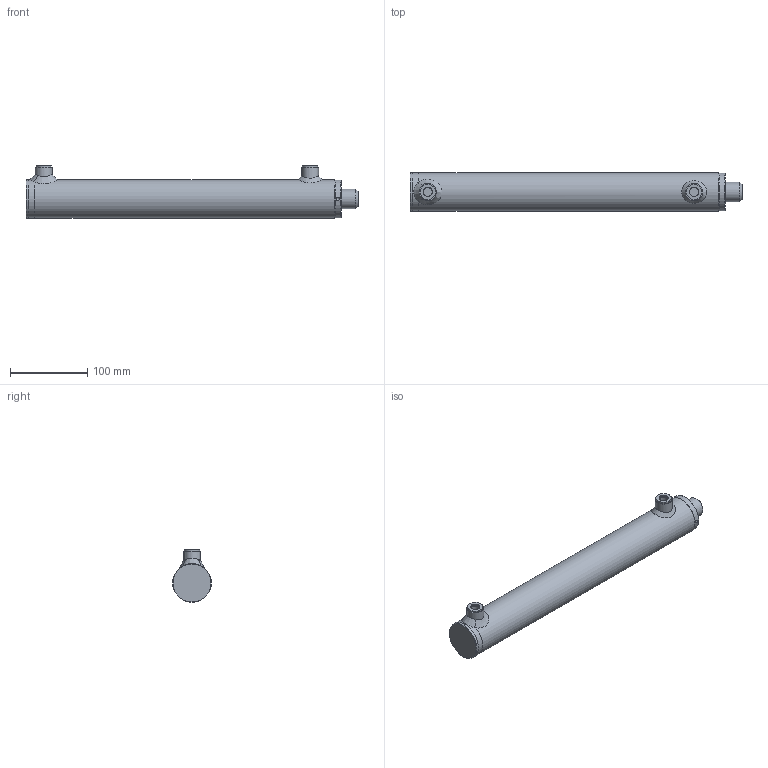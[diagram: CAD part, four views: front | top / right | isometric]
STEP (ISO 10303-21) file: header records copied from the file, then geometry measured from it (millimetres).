
FILE_DESCRIPTION( ( 'Unknown' ), '1' );
FILE_NAME( 'E:/LIBRERIA_3d/CILINDRI/HM0/HM01250300.stp', 'Unknown', ( 'Unknown' ), ( 'Unknown' ), 'PSStep 17.0.49', 'Unknown', ' ' );
FILE_SCHEMA( ( 'AUTOMOTIVE_DESIGN { 1 0 10303 214 1 1 1 1 }' ) );
Length unit declared in the file: millimetre
Products named in the file (18): CG05004025; CT00040015; STL1500300-oa4; Saldatura d'angolo 1-oa2; CBS0400000; FTM1500300-oa3; Assem1; Saldatura con preparazione 1-oa0; Saldatura d'angolo 1-oa1; CF00040050; CDA0001415; APG0400000; SBL2510300
Assembly tree (15 placements, depth 3):
  Saldatura d'angolo 1-oa2
  Saldatura d'angolo 1-oa2
  Assem1
    Saldatura con preparazione 1-oa0
    Saldatura con preparazione 1-oa0
    CF00040050
    CDA0001415
    CBS0400000
    APG0400000  x2
    SBL2510300
    CT00040015
      CT00040015
    CG05004025
      CG05004025
    STL1500300-oa4
      CBS0400000
      FTM1500300-oa3
  Saldatura d'angolo 1-oa1
  Saldatura d'angolo 1-oa1
Bounding box: 430 x 50 x 68 mm (x, y, z)
Volume: 561053.1 mm3; surface area: 193619.6 mm2
Topology: 16 solids, 16 shells, 194 faces, 391 edges, 240 vertices
Faces by surface type: plane 56, cylinder 54, cone 34, torus 32, bspline 18
Full cylindrical faces by diameter (mm): 4 x4, 4.25 x1, 7 x2, 11.445 x2, 12 x2, 13.1 x2, 14 x2, 15 x3, 19.5 x1, 20 x2, 22 x3, 25 x4, 27 x1, 28 x1, 30 x1, 33 x1, 33.6 x1, 35 x1, 35.4 x2, 38.5 x2, 39.9 x1, 40 x1, 40.3 x1, 40.5 x1, 40.6 x1, 41 x1, 42 x3, 42.5 x1, 44 x1, 49 x1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
Entity records: 8484 total; most frequent: CARTESIAN_POINT 3786, DIRECTION 694, ORIENTED_EDGE 424, AXIS2_PLACEMENT_3D 335, EDGE_LOOP 334, FACE_OUTER_BOUND 268, EDGE_CURVE 212, VERTEX_POINT 191
